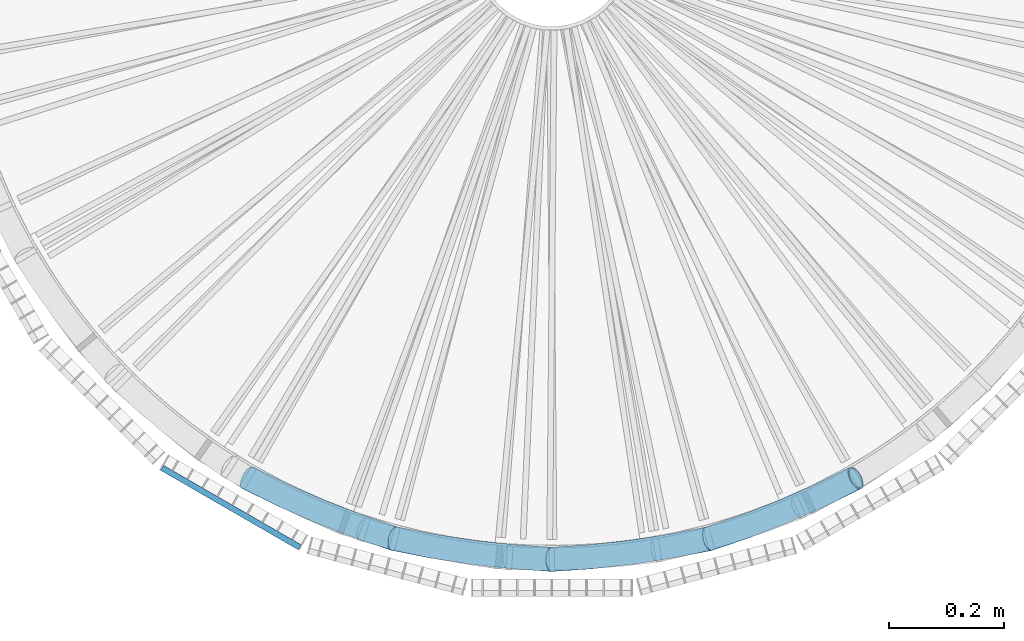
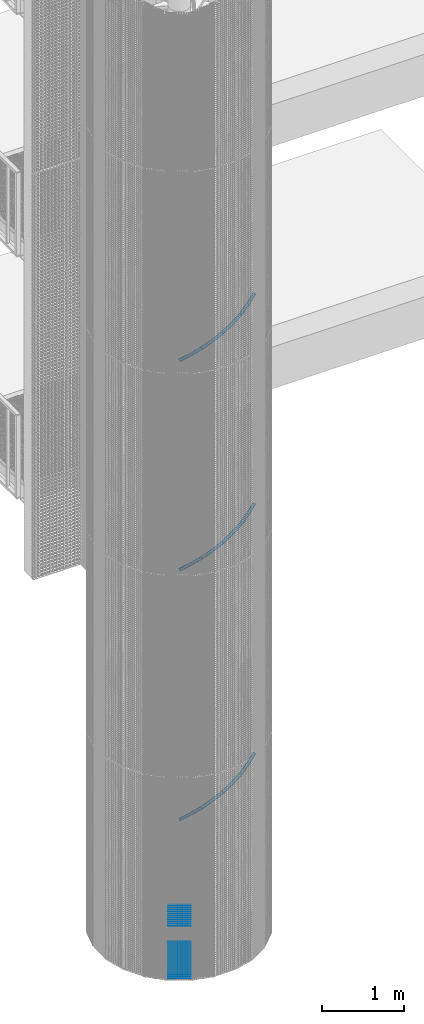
# One storey, part 174 of 1183: 30 beams, 12 members, 13 elements without a shape of their own.
"""IFC2X3 building model written with IfcOpenShell, lengths in millimetres."""

from ifc_helpers import new_model, entity, si_unit, frame, origin_with_axes, origin_2d_with_axis, place, context, subcontext, project, spatial, rectangle, extrude, material, type_object, element, aggregate, save


model = new_model("IFC2X3")

# Units and contexts
model_context = context("Model", 3, precision=1e-05, world=origin_with_axes())
body_context = subcontext(model_context, "Body", "Model", "MODEL_VIEW")
ifc_project = project(units=[si_unit("LENGTHUNIT", "METRE", prefix="MILLI"), si_unit("AREAUNIT", "SQUARE_METRE"), si_unit("VOLUMEUNIT", "CUBIC_METRE"), si_unit("MASSUNIT", "GRAM", prefix="KILO"), si_unit("TIMEUNIT", "SECOND"), si_unit("PLANEANGLEUNIT", "RADIAN"), si_unit("SOLIDANGLEUNIT", "STERADIAN"), si_unit("THERMODYNAMICTEMPERATUREUNIT", "DEGREE_CELSIUS"), si_unit("LUMINOUSINTENSITYUNIT", "LUMEN")], contexts=[model_context])

# Site, building, storey
site_placement = place(None, origin_with_axes())
site = spatial("IfcSite", under=ifc_project, at=site_placement, Name="Undefined", CompositionType="ELEMENT")
building_placement = place(site_placement, origin_with_axes())
building = spatial("IfcBuilding", under=site, at=building_placement, Name="Undefined", CompositionType="ELEMENT")
storey_placement = place(building_placement, origin_with_axes())
storey = spatial("IfcBuildingStorey", under=building, at=storey_placement, Name="Undefined", CompositionType="ELEMENT", Elevation=0.0)

# Assembly, beams
assembly_1_placement = place(storey_placement, origin_with_axes())
assembly_1 = element("IfcElementAssembly", 1, at=assembly_1_placement, inside=storey, Name="BORDURE", AssemblyPlace="NOTDEFINED", PredefinedType="NOTDEFINED")
ifc_material = material(Name="STEEL/S235JR")
beam_type = type_object("IfcBeamType", Name="PL2*10", PredefinedType="NOTDEFINED")
beam_1_placement = place(assembly_1_placement, frame((-676.248044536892, -895.303964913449, 809.999999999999), z_axis=(-0.49999999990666, -0.866025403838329, 0.0), x_axis=(0.866025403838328, -0.49999999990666, 0.0)))
beam_1 = element("IfcBeam", 2, at=beam_1_placement, type_object=beam_type, material=ifc_material, Name="ENTRETOISE", context=body_context, shape_type="SweptSolid", body=[
    extrude(rectangle(XDim=2.0, YDim=10.0, at=origin_2d_with_axis()), frame((275.999999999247, 9.09494701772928e-13, 1.53210777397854e-14), z_axis=(-1.0, 0.0, 0.0), x_axis=(0.0, -1.0, 0.0)), (0.0, 0.0, 1.0), 276.0),
])
beam_2_placement = place(assembly_1_placement, frame((-676.248044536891, -895.30396491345, 569.999999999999), z_axis=(-0.49999999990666, -0.866025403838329, 0.0), x_axis=(0.866025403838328, -0.49999999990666, 0.0)))
beam_2 = element("IfcBeam", 3, at=beam_2_placement, type_object=beam_type, material=ifc_material, Name="ENTRETOISE", context=body_context, shape_type="SweptSolid", body=[
    extrude(rectangle(XDim=2.0, YDim=10.0, at=origin_2d_with_axis()), frame((275.999999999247, 9.09494701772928e-13, 1.53210777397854e-14), z_axis=(-1.0, 0.0, 0.0), x_axis=(0.0, -1.0, 0.0)), (0.0, 0.0, 1.0), 276.0),
])
beam_3_placement = place(assembly_1_placement, frame((-676.248044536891, -895.30396491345, 539.999999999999), z_axis=(-0.49999999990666, -0.866025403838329, 0.0), x_axis=(0.866025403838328, -0.49999999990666, 0.0)))
beam_3 = element("IfcBeam", 4, at=beam_3_placement, type_object=beam_type, material=ifc_material, Name="ENTRETOISE", context=body_context, shape_type="SweptSolid", body=[
    extrude(rectangle(XDim=2.0, YDim=10.0, at=origin_2d_with_axis()), frame((275.999999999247, 9.09494701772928e-13, 1.53210777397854e-14), z_axis=(-1.0, 0.0, 0.0), x_axis=(0.0, -1.0, 0.0)), (0.0, 0.0, 1.0), 276.0),
])
beam_4_placement = place(assembly_1_placement, frame((-676.248044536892, -895.303964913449, 839.999999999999), z_axis=(-0.49999999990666, -0.866025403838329, 0.0), x_axis=(0.866025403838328, -0.49999999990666, 0.0)))
beam_4 = element("IfcBeam", 5, at=beam_4_placement, type_object=beam_type, material=ifc_material, Name="ENTRETOISE", context=body_context, shape_type="SweptSolid", body=[
    extrude(rectangle(XDim=2.0, YDim=10.0, at=origin_2d_with_axis()), frame((275.999999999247, 9.09494701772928e-13, 1.53210777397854e-14), z_axis=(-1.0, 0.0, 0.0), x_axis=(0.0, -1.0, 0.0)), (0.0, 0.0, 1.0), 276.0),
])
beam_5_placement = place(assembly_1_placement, frame((-676.248044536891, -895.303964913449, 509.999999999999), z_axis=(-0.49999999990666, -0.866025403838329, 0.0), x_axis=(0.866025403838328, -0.49999999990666, 0.0)))
beam_5 = element("IfcBeam", 6, at=beam_5_placement, type_object=beam_type, material=ifc_material, Name="ENTRETOISE", context=body_context, shape_type="SweptSolid", body=[
    extrude(rectangle(XDim=2.0, YDim=10.0, at=origin_2d_with_axis()), frame((275.999999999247, 9.09494701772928e-13, 1.53210777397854e-14), z_axis=(-1.0, 0.0, 0.0), x_axis=(0.0, -1.0, 0.0)), (0.0, 0.0, 1.0), 276.0),
])
beam_6_placement = place(assembly_1_placement, frame((-676.248044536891, -895.303964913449, 479.999999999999), z_axis=(-0.49999999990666, -0.866025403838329, 0.0), x_axis=(0.866025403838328, -0.49999999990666, 0.0)))
beam_6 = element("IfcBeam", 7, at=beam_6_placement, type_object=beam_type, material=ifc_material, Name="ENTRETOISE", context=body_context, shape_type="SweptSolid", body=[
    extrude(rectangle(XDim=2.0, YDim=10.0, at=origin_2d_with_axis()), frame((275.999999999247, 9.09494701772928e-13, 1.53210777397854e-14), z_axis=(-1.0, 0.0, 0.0), x_axis=(0.0, -1.0, 0.0)), (0.0, 0.0, 1.0), 276.0),
])
beam_7_placement = place(assembly_1_placement, frame((-676.248044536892, -895.303964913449, 869.999999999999), z_axis=(-0.49999999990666, -0.866025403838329, 0.0), x_axis=(0.866025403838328, -0.49999999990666, 0.0)))
beam_7 = element("IfcBeam", 8, at=beam_7_placement, type_object=beam_type, material=ifc_material, Name="ENTRETOISE", context=body_context, shape_type="SweptSolid", body=[
    extrude(rectangle(XDim=2.0, YDim=10.0, at=origin_2d_with_axis()), frame((275.999999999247, 9.09494701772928e-13, 1.53210777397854e-14), z_axis=(-1.0, 0.0, 0.0), x_axis=(0.0, -1.0, 0.0)), (0.0, 0.0, 1.0), 276.0),
])
beam_8_placement = place(assembly_1_placement, frame((-676.248044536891, -895.30396491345, 449.999999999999), z_axis=(-0.49999999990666, -0.866025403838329, 0.0), x_axis=(0.866025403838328, -0.49999999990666, 0.0)))
beam_8 = element("IfcBeam", 9, at=beam_8_placement, type_object=beam_type, material=ifc_material, Name="ENTRETOISE", context=body_context, shape_type="SweptSolid", body=[
    extrude(rectangle(XDim=2.0, YDim=10.0, at=origin_2d_with_axis()), frame((275.999999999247, 9.09494701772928e-13, 1.53210777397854e-14), z_axis=(-1.0, 0.0, 0.0), x_axis=(0.0, -1.0, 0.0)), (0.0, 0.0, 1.0), 276.0),
])
beam_9_placement = place(assembly_1_placement, frame((-676.24804453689, -895.30396491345, 419.999999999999), z_axis=(-0.49999999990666, -0.866025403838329, 0.0), x_axis=(0.866025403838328, -0.49999999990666, 0.0)))
beam_9 = element("IfcBeam", 10, at=beam_9_placement, type_object=beam_type, material=ifc_material, Name="ENTRETOISE", context=body_context, shape_type="SweptSolid", body=[
    extrude(rectangle(XDim=2.0, YDim=10.0, at=origin_2d_with_axis()), frame((275.999999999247, 9.09494701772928e-13, 1.53210777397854e-14), z_axis=(-1.0, 0.0, 0.0), x_axis=(0.0, -1.0, 0.0)), (0.0, 0.0, 1.0), 276.0),
])
beam_10_placement = place(assembly_1_placement, frame((-676.248044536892, -895.303964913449, 899.999999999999), z_axis=(-0.49999999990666, -0.866025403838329, 0.0), x_axis=(0.866025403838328, -0.49999999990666, 0.0)))
beam_10 = element("IfcBeam", 11, at=beam_10_placement, type_object=beam_type, material=ifc_material, Name="ENTRETOISE", context=body_context, shape_type="SweptSolid", body=[
    extrude(rectangle(XDim=2.0, YDim=10.0, at=origin_2d_with_axis()), frame((275.999999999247, 9.09494701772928e-13, 1.53210777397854e-14), z_axis=(-1.0, 0.0, 0.0), x_axis=(0.0, -1.0, 0.0)), (0.0, 0.0, 1.0), 276.0),
])
beam_11_placement = place(assembly_1_placement, frame((-676.24804453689, -895.30396491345, 389.999999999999), z_axis=(-0.49999999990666, -0.866025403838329, 0.0), x_axis=(0.866025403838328, -0.49999999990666, 0.0)))
beam_11 = element("IfcBeam", 12, at=beam_11_placement, type_object=beam_type, material=ifc_material, Name="ENTRETOISE", context=body_context, shape_type="SweptSolid", body=[
    extrude(rectangle(XDim=2.0, YDim=10.0, at=origin_2d_with_axis()), frame((275.999999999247, 9.09494701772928e-13, 1.53210777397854e-14), z_axis=(-1.0, 0.0, 0.0), x_axis=(0.0, -1.0, 0.0)), (0.0, 0.0, 1.0), 276.0),
])
beam_12_placement = place(assembly_1_placement, frame((-676.248044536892, -895.303964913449, 929.999999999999), z_axis=(-0.49999999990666, -0.866025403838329, 0.0), x_axis=(0.866025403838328, -0.49999999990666, 0.0)))
beam_12 = element("IfcBeam", 13, at=beam_12_placement, type_object=beam_type, material=ifc_material, Name="ENTRETOISE", context=body_context, shape_type="SweptSolid", body=[
    extrude(rectangle(XDim=2.0, YDim=10.0, at=origin_2d_with_axis()), frame((275.999999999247, 9.09494701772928e-13, 1.53210777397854e-14), z_axis=(-1.0, 0.0, 0.0), x_axis=(0.0, -1.0, 0.0)), (0.0, 0.0, 1.0), 276.0),
])
beam_13_placement = place(assembly_1_placement, frame((-676.24804453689, -895.30396491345, 359.999999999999), z_axis=(-0.49999999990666, -0.866025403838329, 0.0), x_axis=(0.866025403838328, -0.49999999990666, 0.0)))
beam_13 = element("IfcBeam", 14, at=beam_13_placement, type_object=beam_type, material=ifc_material, Name="ENTRETOISE", context=body_context, shape_type="SweptSolid", body=[
    extrude(rectangle(XDim=2.0, YDim=10.0, at=origin_2d_with_axis()), frame((275.999999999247, 9.09494701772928e-13, 1.53210777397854e-14), z_axis=(-1.0, 0.0, 0.0), x_axis=(0.0, -1.0, 0.0)), (0.0, 0.0, 1.0), 276.0),
])
beam_14_placement = place(assembly_1_placement, frame((-676.24804453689, -895.30396491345, 329.999999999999), z_axis=(-0.49999999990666, -0.866025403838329, 0.0), x_axis=(0.866025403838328, -0.49999999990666, 0.0)))
beam_14 = element("IfcBeam", 15, at=beam_14_placement, type_object=beam_type, material=ifc_material, Name="ENTRETOISE", context=body_context, shape_type="SweptSolid", body=[
    extrude(rectangle(XDim=2.0, YDim=10.0, at=origin_2d_with_axis()), frame((275.999999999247, 9.09494701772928e-13, 1.53210777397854e-14), z_axis=(-1.0, 0.0, 0.0), x_axis=(0.0, -1.0, 0.0)), (0.0, 0.0, 1.0), 276.0),
])
beam_15_placement = place(assembly_1_placement, frame((-676.248044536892, -895.303964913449, 959.999999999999), z_axis=(-0.49999999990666, -0.866025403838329, 0.0), x_axis=(0.866025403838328, -0.49999999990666, 0.0)))
beam_15 = element("IfcBeam", 16, at=beam_15_placement, type_object=beam_type, material=ifc_material, Name="ENTRETOISE", context=body_context, shape_type="SweptSolid", body=[
    extrude(rectangle(XDim=2.0, YDim=10.0, at=origin_2d_with_axis()), frame((275.999999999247, 9.09494701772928e-13, 1.53210777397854e-14), z_axis=(-1.0, 0.0, 0.0), x_axis=(0.0, -1.0, 0.0)), (0.0, 0.0, 1.0), 276.0),
])
beam_16_placement = place(assembly_1_placement, frame((-676.24804453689, -895.30396491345, 299.999999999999), z_axis=(-0.49999999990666, -0.866025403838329, 0.0), x_axis=(0.866025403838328, -0.49999999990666, 0.0)))
beam_16 = element("IfcBeam", 17, at=beam_16_placement, type_object=beam_type, material=ifc_material, Name="ENTRETOISE", context=body_context, shape_type="SweptSolid", body=[
    extrude(rectangle(XDim=2.0, YDim=10.0, at=origin_2d_with_axis()), frame((275.999999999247, 9.09494701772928e-13, 1.53210777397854e-14), z_axis=(-1.0, 0.0, 0.0), x_axis=(0.0, -1.0, 0.0)), (0.0, 0.0, 1.0), 276.0),
])
beam_17_placement = place(assembly_1_placement, frame((-676.24804453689, -895.30396491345, 269.999999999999), z_axis=(-0.49999999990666, -0.866025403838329, 0.0), x_axis=(0.866025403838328, -0.49999999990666, 0.0)))
beam_17 = element("IfcBeam", 18, at=beam_17_placement, type_object=beam_type, material=ifc_material, Name="ENTRETOISE", context=body_context, shape_type="SweptSolid", body=[
    extrude(rectangle(XDim=2.0, YDim=10.0, at=origin_2d_with_axis()), frame((275.999999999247, 9.09494701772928e-13, 1.53210777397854e-14), z_axis=(-1.0, 0.0, 0.0), x_axis=(0.0, -1.0, 0.0)), (0.0, 0.0, 1.0), 276.0),
])
beam_18_placement = place(assembly_1_placement, frame((-676.248044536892, -895.303964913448, 989.999999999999), z_axis=(-0.49999999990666, -0.866025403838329, 0.0), x_axis=(0.866025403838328, -0.49999999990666, 0.0)))
beam_18 = element("IfcBeam", 19, at=beam_18_placement, type_object=beam_type, material=ifc_material, Name="ENTRETOISE", context=body_context, shape_type="SweptSolid", body=[
    extrude(rectangle(XDim=2.0, YDim=10.0, at=origin_2d_with_axis()), frame((275.999999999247, 9.09494701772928e-13, 1.53210777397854e-14), z_axis=(-1.0, 0.0, 0.0), x_axis=(0.0, -1.0, 0.0)), (0.0, 0.0, 1.0), 276.0),
])
beam_19_placement = place(assembly_1_placement, frame((-676.24804453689, -895.30396491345, 239.999999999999), z_axis=(-0.49999999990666, -0.866025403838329, 0.0), x_axis=(0.866025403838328, -0.49999999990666, 0.0)))
beam_19 = element("IfcBeam", 20, at=beam_19_placement, type_object=beam_type, material=ifc_material, Name="ENTRETOISE", context=body_context, shape_type="SweptSolid", body=[
    extrude(rectangle(XDim=2.0, YDim=10.0, at=origin_2d_with_axis()), frame((275.999999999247, 9.09494701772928e-13, 1.53210777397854e-14), z_axis=(-1.0, 0.0, 0.0), x_axis=(0.0, -1.0, 0.0)), (0.0, 0.0, 1.0), 276.0),
])
beam_20_placement = place(assembly_1_placement, frame((-676.248044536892, -895.303964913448, 1020.0), z_axis=(-0.49999999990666, -0.866025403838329, 0.0), x_axis=(0.866025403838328, -0.49999999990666, 0.0)))
beam_20 = element("IfcBeam", 21, at=beam_20_placement, type_object=beam_type, material=ifc_material, Name="ENTRETOISE", context=body_context, shape_type="SweptSolid", body=[
    extrude(rectangle(XDim=2.0, YDim=10.0, at=origin_2d_with_axis()), frame((275.999999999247, 9.09494701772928e-13, 1.53210777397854e-14), z_axis=(-1.0, 0.0, 0.0), x_axis=(0.0, -1.0, 0.0)), (0.0, 0.0, 1.0), 276.0),
])
beam_21_placement = place(assembly_1_placement, frame((-676.24804453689, -895.30396491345, 209.999999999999), z_axis=(-0.49999999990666, -0.866025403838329, 0.0), x_axis=(0.866025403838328, -0.49999999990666, 0.0)))
beam_21 = element("IfcBeam", 22, at=beam_21_placement, type_object=beam_type, material=ifc_material, Name="ENTRETOISE", context=body_context, shape_type="SweptSolid", body=[
    extrude(rectangle(XDim=2.0, YDim=10.0, at=origin_2d_with_axis()), frame((275.999999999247, 9.09494701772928e-13, 1.53210777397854e-14), z_axis=(-1.0, 0.0, 0.0), x_axis=(0.0, -1.0, 0.0)), (0.0, 0.0, 1.0), 276.0),
])
beam_22_placement = place(assembly_1_placement, frame((-676.24804453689, -895.30396491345, 179.999999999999), z_axis=(-0.49999999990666, -0.866025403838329, 0.0), x_axis=(0.866025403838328, -0.49999999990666, 0.0)))
beam_22 = element("IfcBeam", 23, at=beam_22_placement, type_object=beam_type, material=ifc_material, Name="ENTRETOISE", context=body_context, shape_type="SweptSolid", body=[
    extrude(rectangle(XDim=2.0, YDim=10.0, at=origin_2d_with_axis()), frame((275.999999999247, 9.09494701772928e-13, 1.53210777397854e-14), z_axis=(-1.0, 0.0, 0.0), x_axis=(0.0, -1.0, 0.0)), (0.0, 0.0, 1.0), 276.0),
])
beam_23_placement = place(assembly_1_placement, frame((-676.248044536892, -895.303964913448, 1050.0), z_axis=(-0.49999999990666, -0.866025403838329, 0.0), x_axis=(0.866025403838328, -0.49999999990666, 0.0)))
beam_23 = element("IfcBeam", 24, at=beam_23_placement, type_object=beam_type, material=ifc_material, Name="ENTRETOISE", context=body_context, shape_type="SweptSolid", body=[
    extrude(rectangle(XDim=2.0, YDim=10.0, at=origin_2d_with_axis()), frame((275.999999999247, 9.09494701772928e-13, 1.53210777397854e-14), z_axis=(-1.0, 0.0, 0.0), x_axis=(0.0, -1.0, 0.0)), (0.0, 0.0, 1.0), 276.0),
])
beam_24_placement = place(assembly_1_placement, frame((-676.24804453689, -895.30396491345, 149.999999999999), z_axis=(-0.49999999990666, -0.866025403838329, 0.0), x_axis=(0.866025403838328, -0.49999999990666, 0.0)))
beam_24 = element("IfcBeam", 25, at=beam_24_placement, type_object=beam_type, material=ifc_material, Name="ENTRETOISE", context=body_context, shape_type="SweptSolid", body=[
    extrude(rectangle(XDim=2.0, YDim=10.0, at=origin_2d_with_axis()), frame((275.999999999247, 9.09494701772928e-13, 1.53210777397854e-14), z_axis=(-1.0, 0.0, 0.0), x_axis=(0.0, -1.0, 0.0)), (0.0, 0.0, 1.0), 276.0),
])
beam_25_placement = place(assembly_1_placement, frame((-676.248044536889, -895.30396491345, 119.999999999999), z_axis=(-0.49999999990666, -0.866025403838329, 0.0), x_axis=(0.866025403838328, -0.49999999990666, 0.0)))
beam_25 = element("IfcBeam", 26, at=beam_25_placement, type_object=beam_type, material=ifc_material, Name="ENTRETOISE", context=body_context, shape_type="SweptSolid", body=[
    extrude(rectangle(XDim=2.0, YDim=10.0, at=origin_2d_with_axis()), frame((275.999999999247, 9.09494701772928e-13, 1.53210777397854e-14), z_axis=(-1.0, 0.0, 0.0), x_axis=(0.0, -1.0, 0.0)), (0.0, 0.0, 1.0), 276.0),
])
beam_26_placement = place(assembly_1_placement, frame((-676.248044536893, -895.303964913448, 1080.0), z_axis=(-0.49999999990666, -0.866025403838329, 0.0), x_axis=(0.866025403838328, -0.49999999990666, 0.0)))
beam_26 = element("IfcBeam", 27, at=beam_26_placement, type_object=beam_type, material=ifc_material, Name="ENTRETOISE", context=body_context, shape_type="SweptSolid", body=[
    extrude(rectangle(XDim=2.0, YDim=10.0, at=origin_2d_with_axis()), frame((275.999999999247, 9.09494701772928e-13, 1.53210777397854e-14), z_axis=(-1.0, 0.0, 0.0), x_axis=(0.0, -1.0, 0.0)), (0.0, 0.0, 1.0), 276.0),
])
beam_27_placement = place(assembly_1_placement, frame((-676.248044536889, -895.30396491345, 89.9999999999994), z_axis=(-0.49999999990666, -0.866025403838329, 0.0), x_axis=(0.866025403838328, -0.49999999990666, 0.0)))
beam_27 = element("IfcBeam", 28, at=beam_27_placement, type_object=beam_type, material=ifc_material, Name="ENTRETOISE", context=body_context, shape_type="SweptSolid", body=[
    extrude(rectangle(XDim=2.0, YDim=10.0, at=origin_2d_with_axis()), frame((275.999999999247, 9.09494701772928e-13, 1.53210777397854e-14), z_axis=(-1.0, 0.0, 0.0), x_axis=(0.0, -1.0, 0.0)), (0.0, 0.0, 1.0), 276.0),
])
beam_28_placement = place(assembly_1_placement, frame((-676.248044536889, -895.30396491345, 59.9999999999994), z_axis=(-0.49999999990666, -0.866025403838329, 0.0), x_axis=(0.866025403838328, -0.49999999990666, 0.0)))
beam_28 = element("IfcBeam", 29, at=beam_28_placement, type_object=beam_type, material=ifc_material, Name="ENTRETOISE", context=body_context, shape_type="SweptSolid", body=[
    extrude(rectangle(XDim=2.0, YDim=10.0, at=origin_2d_with_axis()), frame((275.999999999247, 9.09494701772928e-13, 1.53210777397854e-14), z_axis=(-1.0, 0.0, 0.0), x_axis=(0.0, -1.0, 0.0)), (0.0, 0.0, 1.0), 276.0),
])
beam_29_placement = place(assembly_1_placement, frame((-676.248044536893, -895.303964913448, 1110.0), z_axis=(-0.49999999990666, -0.866025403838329, 0.0), x_axis=(0.866025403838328, -0.49999999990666, 0.0)))
beam_29 = element("IfcBeam", 30, at=beam_29_placement, type_object=beam_type, material=ifc_material, Name="ENTRETOISE", context=body_context, shape_type="SweptSolid", body=[
    extrude(rectangle(XDim=2.0, YDim=10.0, at=origin_2d_with_axis()), frame((275.999999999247, 9.09494701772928e-13, 1.53210777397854e-14), z_axis=(-1.0, 0.0, 0.0), x_axis=(0.0, -1.0, 0.0)), (0.0, 0.0, 1.0), 276.0),
])
beam_30_placement = place(assembly_1_placement, frame((-676.248044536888, -895.30396491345, 29.9999999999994), z_axis=(-0.49999999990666, -0.866025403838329, 0.0), x_axis=(0.866025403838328, -0.49999999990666, 0.0)))
beam_30 = element("IfcBeam", 31, at=beam_30_placement, type_object=beam_type, material=ifc_material, Name="ENTRETOISE", context=body_context, shape_type="SweptSolid", body=[
    extrude(rectangle(XDim=2.0, YDim=10.0, at=origin_2d_with_axis()), frame((275.999999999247, 9.09494701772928e-13, 1.53210777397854e-14), z_axis=(-1.0, 0.0, 0.0), x_axis=(0.0, -1.0, 0.0)), (0.0, 0.0, 1.0), 276.0),
])
aggregate(assembly_1, [beam_1, beam_2, beam_3, beam_4, beam_5, beam_6, beam_7, beam_8, beam_9, beam_10, beam_11, beam_12, beam_13, beam_14, beam_15, beam_16, beam_17, beam_18, beam_19, beam_20, beam_21, beam_22, beam_23, beam_24, beam_25, beam_26, beam_27, beam_28, beam_29, beam_30])

# Assembly, member
assembly_2_placement = place(storey_placement, origin_with_axes())
assembly_2 = element("IfcElementAssembly", 32, at=assembly_2_placement, inside=storey, Name="MONTANT", AssemblyPlace="NOTDEFINED", PredefinedType="NOTDEFINED")
member_type = type_object("IfcMemberType", Name="TUBE-42.4*3.2", PredefinedType="NOTDEFINED")
member_1_placement = place(assembly_2_placement, frame((272.79527353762, -1018.08582090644, 6508.20000000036), z_axis=(0.382683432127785, -0.923879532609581, -1.50203959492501e-10), x_axis=(0.805545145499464, 0.333667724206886, 0.489655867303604)))
member_1 = element("IfcMember", 33, at=member_1_placement, type_object=member_type, material=ifc_material, Name="MAIN_COURANTE", context=body_context, shape_type="SweptSolid", body=[
    entity("IfcRevolvedAreaSolid", entity("IfcCircleHollowProfileDef", "AREA", None, entity("IfcAxis2Placement2D", entity("IfcCartesianPoint", [0.0, 0.0]), entity("IfcDirection", [1.0, 0.0])), 21.200000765, 3.200000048), entity("IfcAxis2Placement3D", entity("IfcCartesianPoint", [315.568566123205, -9.09494701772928e-13, -1.31255851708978e-15]), entity("IfcDirection", [-0.997194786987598, -4.44488503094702e-18, 0.0748502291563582]), entity("IfcDirection", [0.0, -1.0, 0.0])), entity("IfcAxis1Placement", entity("IfcCartesianPoint", [0.0, -2108.0, 0.0]), entity("IfcDirection", [1.0, 0.0, 0.0])), 0.149840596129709),
])
aggregate(assembly_2, [member_1])

assembly_3_placement = place(storey_placement, origin_with_axes())
assembly_3 = element("IfcElementAssembly", 34, at=assembly_3_placement, inside=storey, Name="MONTANT", AssemblyPlace="NOTDEFINED", PredefinedType="NOTDEFINED")
member_2_placement = place(assembly_3_placement, frame((-4.48949322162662e-10, -1054.00000001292, 6353.68000000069), z_axis=(0.130526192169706, -0.991444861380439, -6.66022970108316e-11), x_axis=(0.864456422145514, 0.113807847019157, 0.489655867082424)))
member_2 = element("IfcMember", 35, at=member_2_placement, type_object=member_type, material=ifc_material, Name="MAIN_COURANTE", context=body_context, shape_type="SweptSolid", body=[
    entity("IfcRevolvedAreaSolid", entity("IfcCircleHollowProfileDef", "AREA", None, entity("IfcAxis2Placement2D", entity("IfcCartesianPoint", [0.0, 0.0]), entity("IfcDirection", [1.0, 0.0])), 21.200000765, 3.200000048), entity("IfcAxis2Placement3D", entity("IfcCartesianPoint", [315.568566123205, -9.09494701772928e-13, -1.31255851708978e-15]), entity("IfcDirection", [-0.997194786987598, -4.44488503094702e-18, 0.0748502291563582]), entity("IfcDirection", [0.0, -1.0, 0.0])), entity("IfcAxis1Placement", entity("IfcCartesianPoint", [0.0, -2108.0, 0.0]), entity("IfcDirection", [1.0, 0.0, 0.0])), 0.149840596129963),
])
aggregate(assembly_3, [member_2])

assembly_4_placement = place(storey_placement, origin_with_axes())
assembly_4 = element("IfcElementAssembly", 36, at=assembly_4_placement, inside=storey, Name="MONTANT", AssemblyPlace="NOTDEFINED", PredefinedType="NOTDEFINED")
member_3_placement = place(assembly_4_placement, frame((-272.795273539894, -1018.08582091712, 6199.15999999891), z_axis=(-0.130526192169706, -0.991444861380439, 6.66022970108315e-11), x_axis=(0.864456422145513, -0.113807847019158, 0.489655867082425)))
member_3 = element("IfcMember", 37, at=member_3_placement, type_object=member_type, material=ifc_material, Name="MAIN_COURANTE", context=body_context, shape_type="SweptSolid", body=[
    entity("IfcRevolvedAreaSolid", entity("IfcCircleHollowProfileDef", "AREA", None, entity("IfcAxis2Placement2D", entity("IfcCartesianPoint", [0.0, 0.0]), entity("IfcDirection", [1.0, 0.0])), 21.200000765, 3.200000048), entity("IfcAxis2Placement3D", entity("IfcCartesianPoint", [315.568566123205, -9.09494701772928e-13, -1.31255851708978e-15]), entity("IfcDirection", [-0.997194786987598, -4.44488503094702e-18, 0.0748502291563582]), entity("IfcDirection", [0.0, -1.0, 0.0])), entity("IfcAxis1Placement", entity("IfcCartesianPoint", [0.0, -2108.0, 0.0]), entity("IfcDirection", [1.0, 0.0, 0.0])), 0.14984059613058),
])
aggregate(assembly_4, [member_3])

assembly_5_placement = place(storey_placement, origin_with_axes())
assembly_5 = element("IfcElementAssembly", 38, at=assembly_5_placement, inside=storey, Name="MONTANT", AssemblyPlace="NOTDEFINED", PredefinedType="NOTDEFINED")
member_4_placement = place(assembly_5_placement, frame((-526.999999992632, -912.790775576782, 6044.63999999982), z_axis=(-0.382683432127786, -0.923879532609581, 1.50204868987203e-10), x_axis=(0.805545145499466, -0.333667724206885, 0.489655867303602)))
member_4 = element("IfcMember", 39, at=member_4_placement, type_object=member_type, material=ifc_material, Name="MAIN_COURANTE", context=body_context, shape_type="SweptSolid", body=[
    entity("IfcRevolvedAreaSolid", entity("IfcCircleHollowProfileDef", "AREA", None, entity("IfcAxis2Placement2D", entity("IfcCartesianPoint", [0.0, 0.0]), entity("IfcDirection", [1.0, 0.0])), 21.200000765, 3.200000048), entity("IfcAxis2Placement3D", entity("IfcCartesianPoint", [315.568566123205, -9.09494701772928e-13, -1.31255851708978e-15]), entity("IfcDirection", [-0.997194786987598, -4.44488503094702e-18, 0.0748502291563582]), entity("IfcDirection", [0.0, -1.0, 0.0])), entity("IfcAxis1Placement", entity("IfcCartesianPoint", [0.0, -2108.0, 0.0]), entity("IfcDirection", [1.0, 0.0, 0.0])), 0.149840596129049),
])
aggregate(assembly_5, [member_4])

assembly_6_placement = place(storey_placement, origin_with_axes())
assembly_6 = element("IfcElementAssembly", 40, at=assembly_6_placement, inside=storey, Name="MONTANT", AssemblyPlace="NOTDEFINED", PredefinedType="NOTDEFINED")
member_5_placement = place(assembly_6_placement, frame((272.795273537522, -1018.08582090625, 2799.7200000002), z_axis=(0.382683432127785, -0.923879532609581, -1.50203959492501e-10), x_axis=(0.805545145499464, 0.333667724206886, 0.489655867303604)))
member_5 = element("IfcMember", 41, at=member_5_placement, type_object=member_type, material=ifc_material, Name="MAIN_COURANTE", context=body_context, shape_type="SweptSolid", body=[
    entity("IfcRevolvedAreaSolid", entity("IfcCircleHollowProfileDef", "AREA", None, entity("IfcAxis2Placement2D", entity("IfcCartesianPoint", [0.0, 0.0]), entity("IfcDirection", [1.0, 0.0])), 21.200000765, 3.200000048), entity("IfcAxis2Placement3D", entity("IfcCartesianPoint", [315.568566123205, -9.09494701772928e-13, -1.31255851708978e-15]), entity("IfcDirection", [-0.997194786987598, -4.44488503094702e-18, 0.0748502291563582]), entity("IfcDirection", [0.0, -1.0, 0.0])), entity("IfcAxis1Placement", entity("IfcCartesianPoint", [0.0, -2108.0, 0.0]), entity("IfcDirection", [1.0, 0.0, 0.0])), 0.149840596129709),
])
aggregate(assembly_6, [member_5])

assembly_7_placement = place(storey_placement, origin_with_axes())
assembly_7 = element("IfcElementAssembly", 42, at=assembly_7_placement, inside=storey, Name="MONTANT", AssemblyPlace="NOTDEFINED", PredefinedType="NOTDEFINED")
member_6_placement = place(assembly_7_placement, frame((-2.73075784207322e-10, -1054.00000001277, 2645.20000000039), z_axis=(0.130526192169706, -0.991444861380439, -6.66022970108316e-11), x_axis=(0.864456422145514, 0.113807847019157, 0.489655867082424)))
member_6 = element("IfcMember", 43, at=member_6_placement, type_object=member_type, material=ifc_material, Name="MAIN_COURANTE", context=body_context, shape_type="SweptSolid", body=[
    entity("IfcRevolvedAreaSolid", entity("IfcCircleHollowProfileDef", "AREA", None, entity("IfcAxis2Placement2D", entity("IfcCartesianPoint", [0.0, 0.0]), entity("IfcDirection", [1.0, 0.0])), 21.200000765, 3.200000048), entity("IfcAxis2Placement3D", entity("IfcCartesianPoint", [315.568566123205, -9.09494701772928e-13, -1.31255851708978e-15]), entity("IfcDirection", [-0.997194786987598, -4.44488503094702e-18, 0.0748502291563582]), entity("IfcDirection", [0.0, -1.0, 0.0])), entity("IfcAxis1Placement", entity("IfcCartesianPoint", [0.0, -2108.0, 0.0]), entity("IfcDirection", [1.0, 0.0, 0.0])), 0.149840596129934),
])
aggregate(assembly_7, [member_6])

assembly_8_placement = place(storey_placement, origin_with_axes())
assembly_8 = element("IfcElementAssembly", 44, at=assembly_8_placement, inside=storey, Name="MONTANT", AssemblyPlace="NOTDEFINED", PredefinedType="NOTDEFINED")
member_7_placement = place(assembly_8_placement, frame((-272.795273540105, -1018.08582091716, 2490.67999999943), z_axis=(-0.130526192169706, -0.991444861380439, 6.66022970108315e-11), x_axis=(0.864456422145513, -0.113807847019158, 0.489655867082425)))
member_7 = element("IfcMember", 45, at=member_7_placement, type_object=member_type, material=ifc_material, Name="MAIN_COURANTE", context=body_context, shape_type="SweptSolid", body=[
    entity("IfcRevolvedAreaSolid", entity("IfcCircleHollowProfileDef", "AREA", None, entity("IfcAxis2Placement2D", entity("IfcCartesianPoint", [0.0, 0.0]), entity("IfcDirection", [1.0, 0.0])), 21.200000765, 3.200000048), entity("IfcAxis2Placement3D", entity("IfcCartesianPoint", [315.568566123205, -9.09494701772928e-13, -1.31255851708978e-15]), entity("IfcDirection", [-0.997194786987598, -4.44488503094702e-18, 0.0748502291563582]), entity("IfcDirection", [0.0, -1.0, 0.0])), entity("IfcAxis1Placement", entity("IfcCartesianPoint", [0.0, -2108.0, 0.0]), entity("IfcDirection", [1.0, 0.0, 0.0])), 0.149840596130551),
])
aggregate(assembly_8, [member_7])

assembly_9_placement = place(storey_placement, origin_with_axes())
assembly_9 = element("IfcElementAssembly", 46, at=assembly_9_placement, inside=storey, Name="MONTANT", AssemblyPlace="NOTDEFINED", PredefinedType="NOTDEFINED")
member_8_placement = place(assembly_9_placement, frame((-526.999999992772, -912.790775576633, 2336.15999999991), z_axis=(-0.382683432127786, -0.923879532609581, 1.50204868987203e-10), x_axis=(0.805545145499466, -0.333667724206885, 0.489655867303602)))
member_8 = element("IfcMember", 47, at=member_8_placement, type_object=member_type, material=ifc_material, Name="MAIN_COURANTE", context=body_context, shape_type="SweptSolid", body=[
    entity("IfcRevolvedAreaSolid", entity("IfcCircleHollowProfileDef", "AREA", None, entity("IfcAxis2Placement2D", entity("IfcCartesianPoint", [0.0, 0.0]), entity("IfcDirection", [1.0, 0.0])), 21.200000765, 3.200000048), entity("IfcAxis2Placement3D", entity("IfcCartesianPoint", [315.568566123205, -9.09494701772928e-13, -1.31255851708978e-15]), entity("IfcDirection", [-0.997194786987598, -4.44488503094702e-18, 0.0748502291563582]), entity("IfcDirection", [0.0, -1.0, 0.0])), entity("IfcAxis1Placement", entity("IfcCartesianPoint", [0.0, -2108.0, 0.0]), entity("IfcDirection", [1.0, 0.0, 0.0])), 0.149840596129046),
])
aggregate(assembly_9, [member_8])

assembly_10_placement = place(storey_placement, origin_with_axes())
assembly_10 = element("IfcElementAssembly", 48, at=assembly_10_placement, inside=storey, Name="MONTANT", AssemblyPlace="NOTDEFINED", PredefinedType="NOTDEFINED")
member_9_placement = place(assembly_10_placement, frame((272.795273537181, -1018.08582090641, 9624.76000000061), z_axis=(0.382683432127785, -0.923879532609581, -1.50203959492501e-10), x_axis=(0.803040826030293, 0.332630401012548, 0.494451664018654)))
member_9 = element("IfcMember", 49, at=member_9_placement, type_object=member_type, material=ifc_material, Name="MAIN_COURANTE", context=body_context, shape_type="SweptSolid", body=[
    entity("IfcRevolvedAreaSolid", entity("IfcCircleHollowProfileDef", "AREA", None, entity("IfcAxis2Placement2D", entity("IfcCartesianPoint", [0.0, 0.0]), entity("IfcDirection", [1.0, 0.0])), 21.200000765, 3.200000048), entity("IfcAxis2Placement3D", entity("IfcCartesianPoint", [316.552681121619, 9.09494701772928e-13, -1.82569453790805e-12]), entity("IfcDirection", [-0.997177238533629, 2.1263748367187e-18, 0.0750836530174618]), entity("IfcDirection", [0.0, -1.0, 0.0])), entity("IfcAxis1Placement", entity("IfcCartesianPoint", [0.0, -2108.0, 0.0]), entity("IfcDirection", [1.0, 0.0, 0.0])), 0.150308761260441),
])
aggregate(assembly_10, [member_9])

assembly_11_placement = place(storey_placement, origin_with_axes())
assembly_11 = element("IfcElementAssembly", 50, at=assembly_11_placement, inside=storey, Name="MONTANT", AssemblyPlace="NOTDEFINED", PredefinedType="NOTDEFINED")
member_10_placement = place(assembly_11_placement, frame((2.88196133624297e-10, -1053.9999999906, 9468.23999999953), z_axis=(0.130526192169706, -0.991444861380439, -6.66022970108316e-11), x_axis=(0.861768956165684, 0.113454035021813, 0.494451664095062)))
member_10 = element("IfcMember", 51, at=member_10_placement, type_object=member_type, material=ifc_material, Name="MAIN_COURANTE", context=body_context, shape_type="SweptSolid", body=[
    entity("IfcRevolvedAreaSolid", entity("IfcCircleHollowProfileDef", "AREA", None, entity("IfcAxis2Placement2D", entity("IfcCartesianPoint", [0.0, 0.0]), entity("IfcDirection", [1.0, 0.0])), 21.200000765, 3.200000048), entity("IfcAxis2Placement3D", entity("IfcCartesianPoint", [316.552681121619, 9.09494701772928e-13, -1.82569453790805e-12]), entity("IfcDirection", [-0.997177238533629, 2.1263748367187e-18, 0.0750836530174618]), entity("IfcDirection", [0.0, -1.0, 0.0])), entity("IfcAxis1Placement", entity("IfcCartesianPoint", [0.0, -2108.0, 0.0]), entity("IfcDirection", [1.0, 0.0, 0.0])), 0.150308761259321),
])
aggregate(assembly_11, [member_10])

assembly_12_placement = place(storey_placement, origin_with_axes())
assembly_12 = element("IfcElementAssembly", 52, at=assembly_12_placement, inside=storey, Name="MONTANT", AssemblyPlace="NOTDEFINED", PredefinedType="NOTDEFINED")
member_11_placement = place(assembly_12_placement, frame((-272.795273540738, -1018.08582091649, 9311.72000000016), z_axis=(-0.130526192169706, -0.991444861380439, 6.66022970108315e-11), x_axis=(0.861768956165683, -0.113454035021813, 0.494451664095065)))
member_11 = element("IfcMember", 53, at=member_11_placement, type_object=member_type, material=ifc_material, Name="MAIN_COURANTE", context=body_context, shape_type="SweptSolid", body=[
    entity("IfcRevolvedAreaSolid", entity("IfcCircleHollowProfileDef", "AREA", None, entity("IfcAxis2Placement2D", entity("IfcCartesianPoint", [0.0, 0.0]), entity("IfcDirection", [1.0, 0.0])), 21.200000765, 3.200000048), entity("IfcAxis2Placement3D", entity("IfcCartesianPoint", [316.552681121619, 9.09494701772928e-13, -1.82569453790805e-12]), entity("IfcDirection", [-0.997177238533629, 2.1263748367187e-18, 0.0750836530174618]), entity("IfcDirection", [0.0, -1.0, 0.0])), entity("IfcAxis1Placement", entity("IfcCartesianPoint", [0.0, -2108.0, 0.0]), entity("IfcDirection", [1.0, 0.0, 0.0])), 0.150308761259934),
])
aggregate(assembly_12, [member_11])

assembly_13_placement = place(storey_placement, origin_with_axes())
assembly_13 = element("IfcElementAssembly", 54, at=assembly_13_placement, inside=storey, Name="MONTANT", AssemblyPlace="NOTDEFINED", PredefinedType="NOTDEFINED")
member_12_placement = place(assembly_13_placement, frame((-527.000000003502, -912.790775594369, 9155.19999999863), z_axis=(-0.382683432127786, -0.923879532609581, 1.50204868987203e-10), x_axis=(0.803040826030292, -0.332630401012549, 0.494451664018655)))
member_12 = element("IfcMember", 55, at=member_12_placement, type_object=member_type, material=ifc_material, Name="MAIN_COURANTE", context=body_context, shape_type="SweptSolid", body=[
    entity("IfcRevolvedAreaSolid", entity("IfcCircleHollowProfileDef", "AREA", None, entity("IfcAxis2Placement2D", entity("IfcCartesianPoint", [0.0, 0.0]), entity("IfcDirection", [1.0, 0.0])), 21.200000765, 3.200000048), entity("IfcAxis2Placement3D", entity("IfcCartesianPoint", [316.552681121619, 9.09494701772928e-13, -1.82569453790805e-12]), entity("IfcDirection", [-0.997177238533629, 2.1263748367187e-18, 0.0750836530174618]), entity("IfcDirection", [0.0, -1.0, 0.0])), entity("IfcAxis1Placement", entity("IfcCartesianPoint", [0.0, -2108.0, 0.0]), entity("IfcDirection", [1.0, 0.0, 0.0])), 0.150308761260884),
])
aggregate(assembly_13, [member_12])

save(model, "model.ifc")
